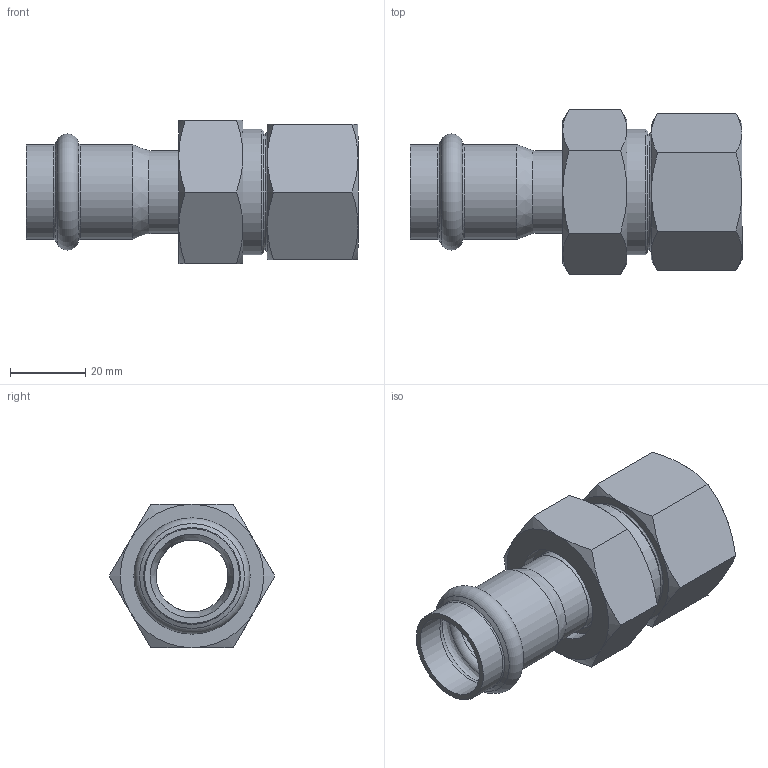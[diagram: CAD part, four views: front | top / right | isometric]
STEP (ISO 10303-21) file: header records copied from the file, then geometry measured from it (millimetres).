
FILE_DESCRIPTION((''),'2;1');
FILE_NAME('G:\Nirosan-Schmiedefeld\Technics\CAD\Bauteile VA\022\69330G221(3).stp','2011-06-28T14:08:55',('herberg'),(''),'Autodesk Inventor 2009','Autodesk Inventor 2009','');
FILE_SCHEMA(('AUTOMOTIVE_DESIGN { 1 0 10303 214 1 1 1 1 }'));
Length unit declared in the file: millimetre
Products named in the file (7): 69330G221(3); 69359mms221(1); HM_6924322(1); R221(0); FD_3021_EPDM(0); MS_SM221(2); 69370G11(1)
Assembly tree (6 placements, depth 3):
  69330G221(3)
    69359mms221(1)
      HM_6924322(1)
      R221(0)
      FD_3021_EPDM(0)
      MS_SM221(2)
    69370G11(1)
Bounding box: 88 x 43.88 x 38 mm (x, y, z)
Volume: 33166 mm3; surface area: 23622.9 mm2
Topology: 5 solids, 5 shells, 85 faces, 167 edges, 97 vertices
Faces by surface type: cone 33, plane 25, cylinder 13, bspline 11, torus 3
Full cylindrical faces by diameter (mm): 19 x2, 21 x1, 22 x2, 22.15 x2, 25.15 x2, 29 x1, 30 x1, 31 x1, 33.249 x1
Entity records: 2439 total; most frequent: CARTESIAN_POINT 750, DIRECTION 328, ORIENTED_EDGE 262, AXIS2_PLACEMENT_3D 158, EDGE_LOOP 134, EDGE_CURVE 131, VERTEX_POINT 95, FACE_OUTER_BOUND 85
